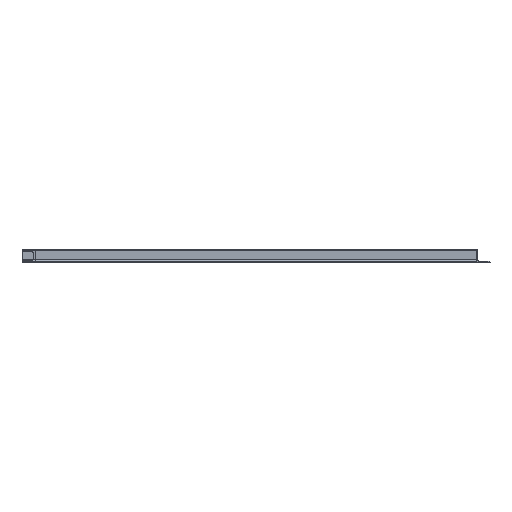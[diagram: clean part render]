
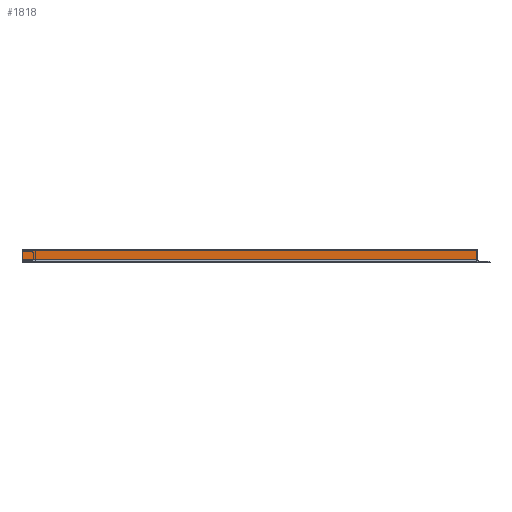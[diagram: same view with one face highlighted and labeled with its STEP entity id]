
A CAD part, front view. The second image highlights one B-rep face of the part: STEP entity #1818.
In plain terms, the highlighted planar face has unit normal (0, -1, 0) as drawn and (1, 0, 0) by its records, which use the part's own axes.
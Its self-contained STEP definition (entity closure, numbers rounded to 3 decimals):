
#215=FACE_OUTER_BOUND('',#316,.T.);
#316=EDGE_LOOP('',(#1333,#1334,#1335,#1336));
#451=LINE('',#2878,#638);
#452=LINE('',#2882,#639);
#453=LINE('',#2884,#640);
#454=LINE('',#2885,#641);
#638=VECTOR('',#2304,10.);
#639=VECTOR('',#2309,10.);
#640=VECTOR('',#2310,10.);
#641=VECTOR('',#2311,10.);
#816=VERTEX_POINT('',#2875);
#817=VERTEX_POINT('',#2877);
#818=VERTEX_POINT('',#2881);
#819=VERTEX_POINT('',#2883);
#1012=EDGE_CURVE('',#817,#816,#451,.T.);
#1014=EDGE_CURVE('',#816,#818,#452,.T.);
#1015=EDGE_CURVE('',#819,#818,#453,.T.);
#1016=EDGE_CURVE('',#817,#819,#454,.T.);
#1333=ORIENTED_EDGE('',*,*,#1014,.T.);
#1334=ORIENTED_EDGE('',*,*,#1015,.F.);
#1335=ORIENTED_EDGE('',*,*,#1016,.F.);
#1336=ORIENTED_EDGE('',*,*,#1012,.T.);
#1747=PLANE('',#2013);
#1818=ADVANCED_FACE('',(#215),#1747,.T.);
#2013=AXIS2_PLACEMENT_3D('',#2880,#2307,#2308);
#2304=DIRECTION('',(0.,0.,1.));
#2307=DIRECTION('center_axis',(1.,0.,0.));
#2308=DIRECTION('ref_axis',(0.,0.,-1.));
#2309=DIRECTION('',(0.,-1.,0.));
#2310=DIRECTION('',(0.,0.,1.));
#2311=DIRECTION('',(0.,-1.,0.));
#2875=CARTESIAN_POINT('',(-6.019,22.481,1140.));
#2877=CARTESIAN_POINT('',(-6.019,22.481,0.));
#2878=CARTESIAN_POINT('',(-6.019,22.481,0.));
#2880=CARTESIAN_POINT('Origin',(-6.019,22.481,0.));
#2881=CARTESIAN_POINT('',(-6.019,-1.019,1140.));
#2882=CARTESIAN_POINT('',(-6.019,14.981,1140.));
#2883=CARTESIAN_POINT('',(-6.019,-1.019,0.));
#2884=CARTESIAN_POINT('',(-6.019,-1.019,0.));
#2885=CARTESIAN_POINT('',(-6.019,14.981,0.));
